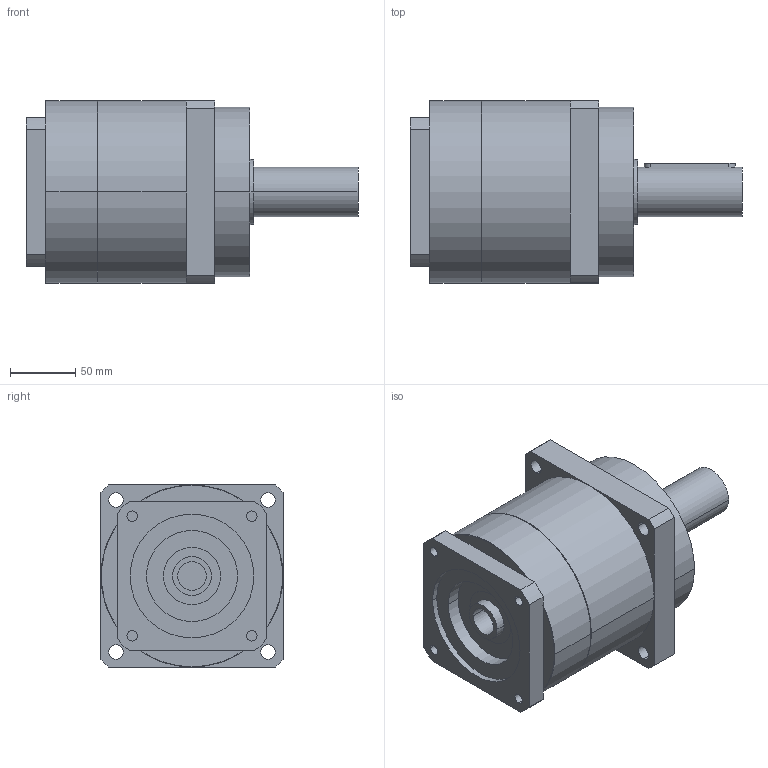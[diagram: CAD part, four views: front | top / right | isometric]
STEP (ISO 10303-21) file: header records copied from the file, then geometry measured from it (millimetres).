
FILE_DESCRIPTION(('CoCreate Modeling STEP Export'),'2;1');
FILE_NAME('GPR150_ig-3-4-5-7_38_B5_22_P10.stp','2014-08-26T15:29:18',(''),(''),'CoCreate Modeling STEP processor for AP214 (Solid Model)','CoCreate Modeling 16.00C 25-Feb-2009 (C) Parametric Technology GmbH','');
FILE_SCHEMA(('AUTOMOTIVE_DESIGN { 1 0 10303 214 1 1 1 1 }'));
Length unit declared in the file: millimetre
Products named in the file (2): GPR150_ig-3-4-5-7_38_B5_22_P10
Assembly tree (1 placements, depth 2):
  GPR150_ig-3-4-5-7_38_B5_22_P10
    GPR150_ig-3-4-5-7_38_B5_22_P10
Bounding box: 255 x 140 x 140 mm (x, y, z)
Volume: 2645353.8 mm3; surface area: 140014.5 mm2
Topology: 1 solids, 1 shells, 92 faces, 229 edges, 151 vertices
Faces by surface type: cylinder 48, plane 38, cone 6
Entity records: 2398 total; most frequent: ORIENTED_EDGE 454, CARTESIAN_POINT 437, DIRECTION 336, EDGE_CURVE 227, VERTEX_POINT 151, AXIS2_PLACEMENT_3D 122, EDGE_LOOP 114, VECTOR 92
